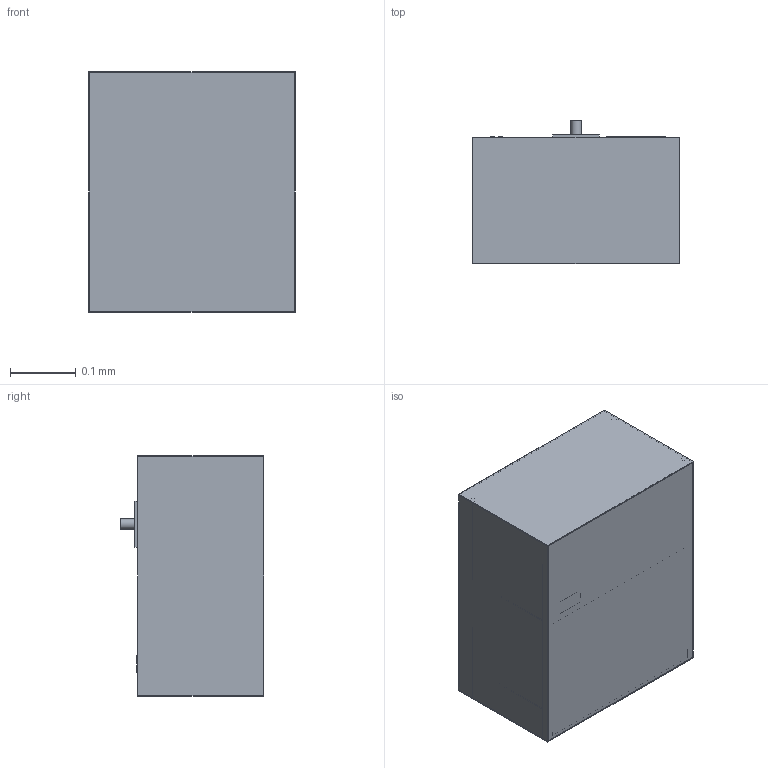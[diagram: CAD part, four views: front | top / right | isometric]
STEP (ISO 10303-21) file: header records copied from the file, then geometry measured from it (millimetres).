
FILE_DESCRIPTION(('Open CASCADE Model'),'2;1');
FILE_NAME('Open CASCADE Shape Model','2026-10-04T10:37:24',('Author'),( 'Open CASCADE'),'Open CASCADE STEP processor 7.9','Open CASCADE 7.9' ,'Unknown');
FILE_SCHEMA(('AUTOMOTIVE_DESIGN { 1 0 10303 214 1 1 1 1 }'));
Length unit declared in the file: millimetre
Products named in the file (152): MOD-microfluidics; store__Peltier_cold_stage_4_C; store__carousel_24_effluent_tubes; store__effluent_tubes; store__carousel_drive; store__dispensing_needle; electronics__controller_enclosure_boards_data_storage; electronics__connector_1; electronics__connector_2; pump__fluid_manifold; pump__micro_pump_1; pump__micro_pump_2; pump__micro_pump_3; pump__micro_pump_4; pump__valve_1; pump__valve_2; pump__valve_3; pump__valve_4; pump__manifold_inlet; pump__manifold_outlet; fluid__sensor_bracket; fluid__bubble_trap_1; fluid__inline_flow_sensor; fluid__bubble_trap_2; fluid__inline_pressure_sensor; imaging__microscope_base_optics_filter_cubes_camera; imaging__objective; imaging__stage_post_1; imaging__stage_post_2; imaging__stage_post_3; imaging__stage_post_4; imaging__XY_stage_frame_travel_96_5_x_57_9_mm_every_well_over_the_
objective; imaging__stage_carriage; imaging__X_stepper; imaging__Y_stepper; imaging__illumination_column; imaging__illumination_arm; imaging__arm_to_head; imaging__LED_head_transmitted_light; sample__SBS_format_chip_holder_with_fluidic_manifold ...
Assembly tree (151 placements, depth 2):
  MOD-microfluidics
    store__Peltier_cold_stage_4_C
    store__carousel_24_effluent_tubes
    store__effluent_tubes
    store__carousel_drive
    store__dispensing_needle
    electronics__controller_enclosure_boards_data_storage
    electronics__connector_1
    electronics__connector_2
    pump__fluid_manifold
    pump__micro_pump_1
    pump__micro_pump_2
    pump__micro_pump_3
    pump__micro_pump_4
    pump__valve_1
    pump__valve_2
    pump__valve_3
    pump__valve_4
    pump__manifold_inlet
    pump__manifold_outlet
    fluid__sensor_bracket
    fluid__bubble_trap_1
    fluid__inline_flow_sensor
    fluid__bubble_trap_2
    fluid__inline_pressure_sensor
    imaging__microscope_base_optics_filter_cubes_camera
    imaging__objective
    imaging__stage_post_1
    imaging__stage_post_2
    imaging__stage_post_3
    imaging__stage_post_4
    imaging__XY_stage_frame_travel_96_5_x_57_9_mm_every_well_over_the_
objective
    imaging__stage_carriage
    imaging__X_stepper
    imaging__Y_stepper
    imaging__illumination_column
    imaging__illumination_arm
    imaging__arm_to_head
    imaging__LED_head_transmitted_light
    sample__SBS_format_chip_holder_with_fluidic_manifold
    sample__organ_chip_1_slide_format_75_x_25_mm
    sample__organ_chip_1_channel_with_cells
    sample__organ_chip_2_slide_format_75_x_25_mm
    sample__organ_chip_2_channel_with_cells
    sample__organ_chip_3_slide_format_75_x_25_mm
    sample__organ_chip_3_channel_with_cells
    sample__organ_chip_4_slide_format_75_x_25_mm
    sample__organ_chip_4_channel_with_cells
    sample__chip_manifold_port_1
    sample__chip_manifold_port_2
    fluid__medium_120_mL
    fluid__medium_port
    fluid__drug_120_mL
    fluid__drug_port
    fluid__vehicle_120_mL
    fluid__vehicle_port
    fluid__fixative_120_mL
    fluid__fixative_port
    fluid__RNA_stabilising_reagent_120_mL
    fluid__RNA_stabilising_reagent_port
Bounding box: 0.31 x 0.22 x 0.37 mm (x, y, z)
Volume: 0 mm3; surface area: 1.9 mm2
Topology: 175 solids, 175 shells, 733 faces, 1077 edges, 718 vertices
Faces by surface type: plane 558, cylinder 175
Full cylindrical faces by diameter (mm): 0.002 x1, 0.003 x56, 0.005 x25, 0.006 x4, 0.007 x24, 0.008 x24, 0.009 x4, 0.01 x4, 0.012 x2, 0.016 x3, 0.02 x5, 0.022 x1, 0.028 x1, 0.09 x1
Entity records: 33784 total; most frequent: DIRECTION 5331, CARTESIAN_POINT 4954, LINE 2531, VECTOR 2531, ORIENTED_EDGE 2154, PCURVE 2154, DEFINITIONAL_REPRESENTATION 2154, AXIS2_PLACEMENT_3D 1235
